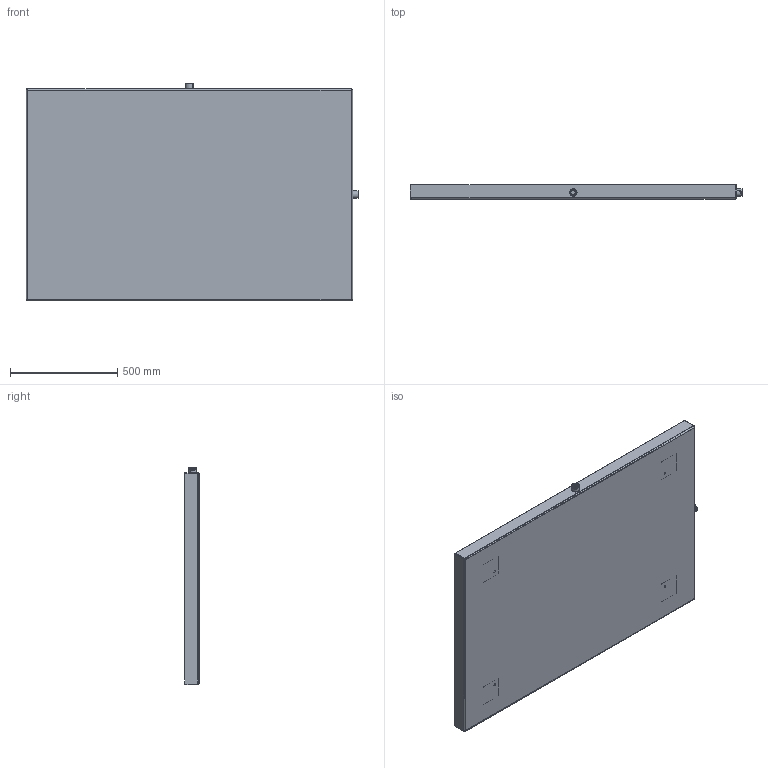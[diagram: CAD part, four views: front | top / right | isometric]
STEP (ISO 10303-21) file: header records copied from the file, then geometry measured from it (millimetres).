
FILE_DESCRIPTION (( 'STEP AP203' ), '1' );
FILE_NAME ('RJDPP060.STEP', '2015-01-07T19:47:51', ( '' ), ( '' ), 'SwSTEP 2.0', 'SolidWorks 2014', '' );
FILE_SCHEMA (( 'CONFIG_CONTROL_DESIGN' ));
Length unit declared in the file: inch
Products named in the file (1): RJDPP060
Bounding box: 1549.4 x 66.67 x 1016 mm (x, y, z)
Volume: 6067898 mm3; surface area: 3768535 mm2
Topology: 9 solids, 9 shells, 250 faces, 532 edges, 304 vertices
Faces by surface type: cone 128, plane 70, cylinder 44, bspline 8
Entity records: 7243 total; most frequent: CARTESIAN_POINT 1703, DIRECTION 1210, ORIENTED_EDGE 1064, EDGE_CURVE 532, AXIS2_PLACEMENT_3D 451, VECTOR 308, LINE 308, VERTEX_POINT 304
